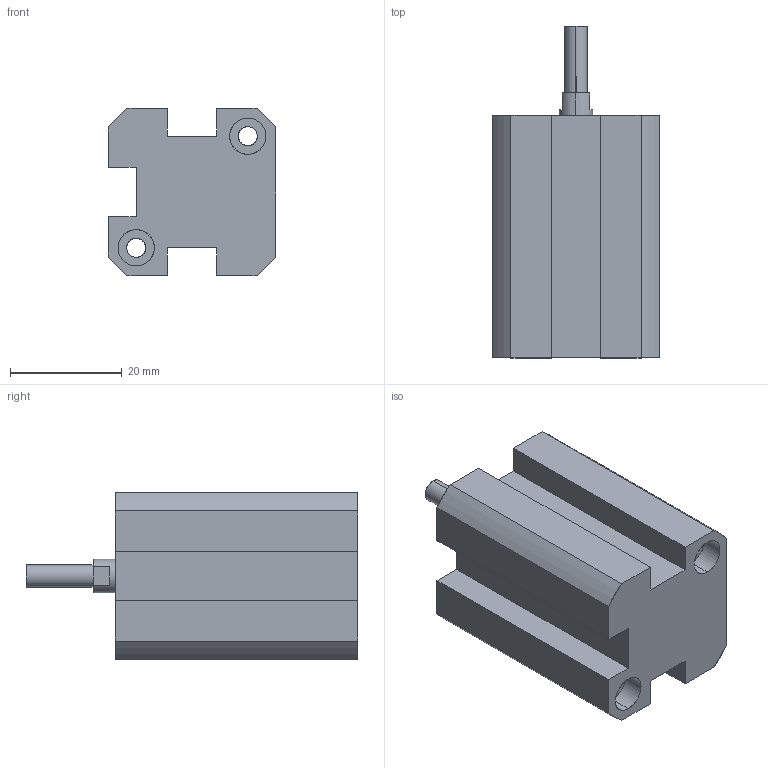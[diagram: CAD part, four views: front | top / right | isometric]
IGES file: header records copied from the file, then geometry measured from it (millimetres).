
Start section: SolidWorks IGES file using analytic representation for surfaces
Global section: file name: C:\Users\Toshiba\Desktop\XG#M2-16D-10.IGS; native system: SolidWorks 2014; preprocessor: SolidWorks 2014; author: Toshiba; date: 160524.101032; units: millimetre
Bounding box: 30 x 59.5 x 30 mm (x, y, z)
Surface area: 9473.4 mm2 (no closed solid volume)
Topology: 0 solids, 0 shells, 76 faces, 1195 edges, 1191 vertices
Faces by surface type: revolution 43, bspline 33
